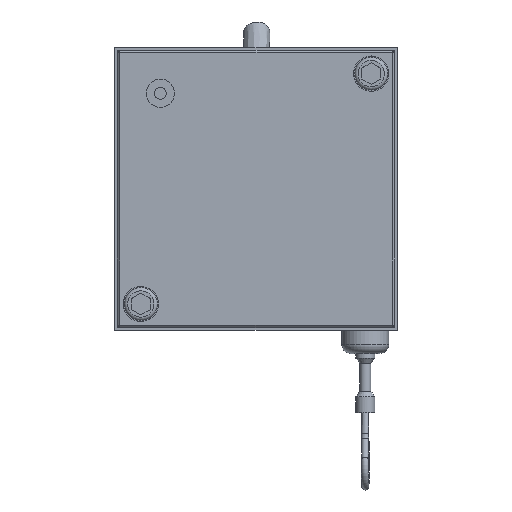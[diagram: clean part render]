
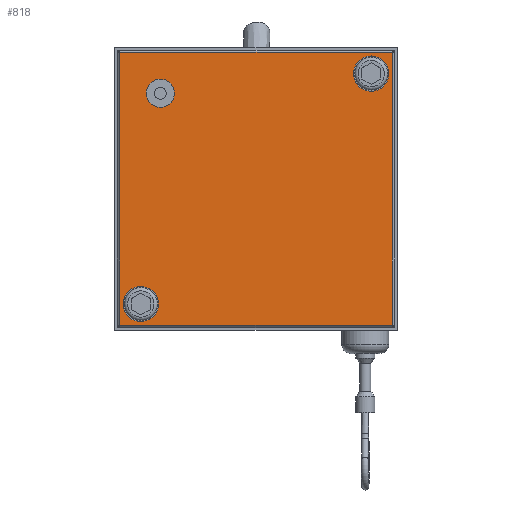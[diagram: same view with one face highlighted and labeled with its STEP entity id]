
A CAD part, top view. The second image highlights one B-rep face of the part: STEP entity #818.
In plain terms, the highlighted planar face has unit normal (0, 0, 1).
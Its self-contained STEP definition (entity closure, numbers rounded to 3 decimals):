
#818 = ADVANCED_FACE( '', ( #1870, #1871, #1872, #1873 ), #1874, .T. );
#1870 = FACE_OUTER_BOUND( '', #3918, .T. );
#1871 = FACE_BOUND( '', #3919, .T. );
#1872 = FACE_BOUND( '', #3920, .T. );
#1873 = FACE_BOUND( '', #3921, .T. );
#1874 = PLANE( '', #3922 );
#3918 = EDGE_LOOP( '', ( #6933, #6934, #6935, #6936 ) );
#3919 = EDGE_LOOP( '', ( #6937 ) );
#3920 = EDGE_LOOP( '', ( #6938 ) );
#3921 = EDGE_LOOP( '', ( #6939 ) );
#3922 = AXIS2_PLACEMENT_3D( '', #6940, #6941, #6942 );
#6933 = ORIENTED_EDGE( '', *, *, #8400, .T. );
#6934 = ORIENTED_EDGE( '', *, *, #7926, .T. );
#6935 = ORIENTED_EDGE( '', *, *, #8658, .T. );
#6936 = ORIENTED_EDGE( '', *, *, #8670, .T. );
#6937 = ORIENTED_EDGE( '', *, *, #8671, .T. );
#6938 = ORIENTED_EDGE( '', *, *, #8591, .T. );
#6939 = ORIENTED_EDGE( '', *, *, #8032, .T. );
#6940 = CARTESIAN_POINT( '', ( 29.5, 29.5, 50.5 ) );
#6941 = DIRECTION( '', ( 0., 0., 1. ) );
#6942 = DIRECTION( '', ( -1., 0., 0. ) );
#7926 = EDGE_CURVE( '', #8962, #8960, #8963, .T. );
#8032 = EDGE_CURVE( '', #9150, #9150, #9151, .T. );
#8400 = EDGE_CURVE( '', #9737, #8962, #9738, .T. );
#8591 = EDGE_CURVE( '', #10002, #10002, #10003, .T. );
#8658 = EDGE_CURVE( '', #8960, #10093, #10095, .T. );
#8670 = EDGE_CURVE( '', #10093, #9737, #10110, .T. );
#8671 = EDGE_CURVE( '', #10111, #10111, #10112, .T. );
#8960 = VERTEX_POINT( '', #10520 );
#8962 = VERTEX_POINT( '', #10523 );
#8963 = LINE( '', #10524, #10525 );
#9150 = VERTEX_POINT( '', #10838 );
#9151 = CIRCLE( '', #10839, 3. );
#9737 = VERTEX_POINT( '', #12560 );
#9738 = LINE( '', #12561, #12562 );
#10002 = VERTEX_POINT( '', #12941 );
#10003 = CIRCLE( '', #12942, 3.75 );
#10093 = VERTEX_POINT( '', #13145 );
#10095 = LINE( '', #13148, #13149 );
#10110 = LINE( '', #13166, #13167 );
#10111 = VERTEX_POINT( '', #13168 );
#10112 = CIRCLE( '', #13169, 3.75 );
#10520 = CARTESIAN_POINT( '', ( 29., 29., 50.5 ) );
#10523 = CARTESIAN_POINT( '', ( 29., -29., 50.5 ) );
#10524 = CARTESIAN_POINT( '', ( 29., 29.5, 50.5 ) );
#10525 = VECTOR( '', #14207, 1000. );
#10838 = CARTESIAN_POINT( '', ( -17.329, 20.329, 50.5 ) );
#10839 = AXIS2_PLACEMENT_3D( '', #14341, #14342, #14343 );
#12560 = CARTESIAN_POINT( '', ( -29., -29., 50.5 ) );
#12561 = CARTESIAN_POINT( '', ( 29.5, -29., 50.5 ) );
#12562 = VECTOR( '', #14809, 1000. );
#12941 = CARTESIAN_POINT( '', ( 28.25, 24.5, 50.5 ) );
#12942 = AXIS2_PLACEMENT_3D( '', #15027, #15028, #15029 );
#13145 = CARTESIAN_POINT( '', ( -29., 29., 50.5 ) );
#13148 = CARTESIAN_POINT( '', ( -29.5, 29., 50.5 ) );
#13149 = VECTOR( '', #15101, 1000. );
#13166 = CARTESIAN_POINT( '', ( -29., -29.5, 50.5 ) );
#13167 = VECTOR( '', #15110, 1000. );
#13168 = CARTESIAN_POINT( '', ( -20.75, -24.5, 50.5 ) );
#13169 = AXIS2_PLACEMENT_3D( '', #15111, #15112, #15113 );
#14207 = DIRECTION( '', ( 0., 1., 0. ) );
#14341 = CARTESIAN_POINT( '', ( -20.329, 20.329, 50.5 ) );
#14342 = DIRECTION( '', ( 0., 0., -1. ) );
#14343 = DIRECTION( '', ( 1., 0., 0. ) );
#14809 = DIRECTION( '', ( 1., 0., 0. ) );
#15027 = CARTESIAN_POINT( '', ( 24.5, 24.5, 50.5 ) );
#15028 = DIRECTION( '', ( 0., 0., -1. ) );
#15029 = DIRECTION( '', ( 1., 0., 0. ) );
#15101 = DIRECTION( '', ( -1., 0., 0. ) );
#15110 = DIRECTION( '', ( 0., -1., 0. ) );
#15111 = CARTESIAN_POINT( '', ( -24.5, -24.5, 50.5 ) );
#15112 = DIRECTION( '', ( 0., 0., -1. ) );
#15113 = DIRECTION( '', ( 1., 0., 0. ) );
